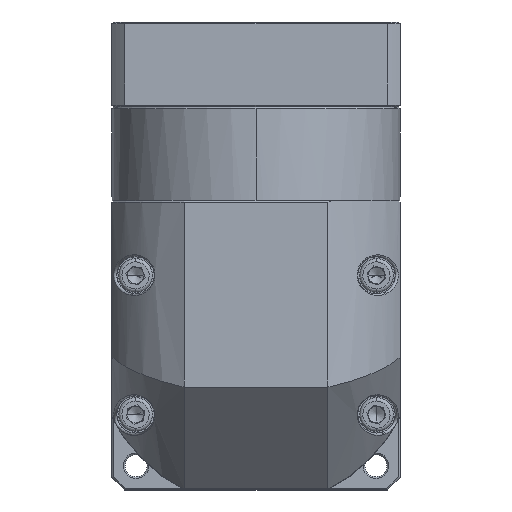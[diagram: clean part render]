
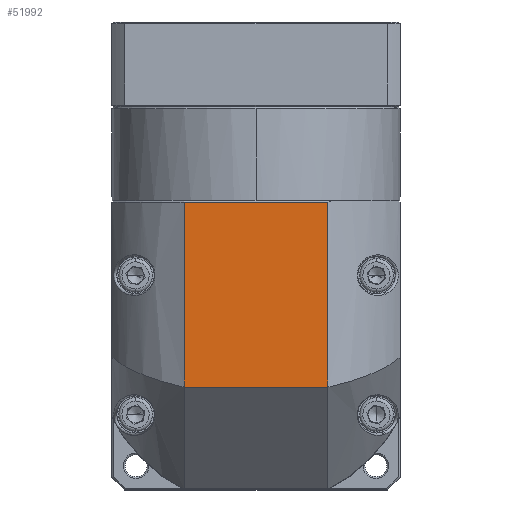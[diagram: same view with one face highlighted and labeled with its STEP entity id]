
A CAD part, top view. The second image highlights one B-rep face of the part: STEP entity #51992.
In plain terms, the highlighted planar face has unit normal (0, 0, 1).
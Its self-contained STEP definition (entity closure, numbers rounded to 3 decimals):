
#1902 = CARTESIAN_POINT ( 'NONE',  ( -23.028, -15.64, 251.5 ) ) ;
#3612 = LINE ( 'NONE', #77918, #83558 ) ;
#6196 = EDGE_CURVE ( 'NONE', #85332, #127167, #16966, .T. ) ;
#15920 = CARTESIAN_POINT ( 'NONE',  ( -1.814, 38.86, 251.5 ) ) ;
#16966 = LINE ( 'NONE', #102109, #111561 ) ;
#20456 = CARTESIAN_POINT ( 'NONE',  ( -1.814, -15.64, 251.5 ) ) ;
#21689 = CARTESIAN_POINT ( 'NONE',  ( -23.028, -3.14, 251.5 ) ) ;
#24978 = VERTEX_POINT ( 'NONE', #20456 ) ;
#25332 = EDGE_CURVE ( 'NONE', #24978, #38198, #54606, .T. ) ;
#35916 = CARTESIAN_POINT ( 'NONE',  ( -44.241, -15.64, 251.5 ) ) ;
#38198 = VERTEX_POINT ( 'NONE', #35916 ) ;
#43322 = VECTOR ( 'NONE', #63427, 1000. ) ;
#43734 = CARTESIAN_POINT ( 'NONE',  ( -1.814, -61.14, 251.5 ) ) ;
#51992 = ADVANCED_FACE ( 'NONE', ( #99054 ), #126146, .T. ) ;
#54606 = LINE ( 'NONE', #1902, #103507 ) ;
#60929 = ORIENTED_EDGE ( 'NONE', *, *, #25332, .F. ) ;
#63427 = DIRECTION ( 'NONE',  ( 0., -1., 0. ) ) ;
#71118 = LINE ( 'NONE', #43734, #43322 ) ;
#77918 = CARTESIAN_POINT ( 'NONE',  ( -44.241, -61.14, 251.5 ) ) ;
#82930 = ORIENTED_EDGE ( 'NONE', *, *, #130139, .F. ) ;
#83517 = DIRECTION ( 'NONE',  ( -1., 0., 0. ) ) ;
#83558 = VECTOR ( 'NONE', #119439, 1000. ) ;
#85332 = VERTEX_POINT ( 'NONE', #15920 ) ;
#85444 = DIRECTION ( 'NONE',  ( 0., 1., 0. ) ) ;
#91979 = ORIENTED_EDGE ( 'NONE', *, *, #124184, .F. ) ;
#95394 = AXIS2_PLACEMENT_3D ( 'NONE', #21689, #105085, #85444 ) ;
#98328 = ORIENTED_EDGE ( 'NONE', *, *, #6196, .T. ) ;
#99054 = FACE_OUTER_BOUND ( 'NONE', #128604, .T. ) ;
#102109 = CARTESIAN_POINT ( 'NONE',  ( -23.028, 38.86, 251.5 ) ) ;
#103507 = VECTOR ( 'NONE', #83517, 1000. ) ;
#105085 = DIRECTION ( 'NONE',  ( 0., 0., 1. ) ) ;
#111561 = VECTOR ( 'NONE', #112183, 1000. ) ;
#112183 = DIRECTION ( 'NONE',  ( -1., 0., 0. ) ) ;
#119439 = DIRECTION ( 'NONE',  ( 0., 1., 0. ) ) ;
#124184 = EDGE_CURVE ( 'NONE', #85332, #24978, #71118, .T. ) ;
#126146 = PLANE ( 'NONE',  #95394 ) ;
#127167 = VERTEX_POINT ( 'NONE', #133285 ) ;
#128604 = EDGE_LOOP ( 'NONE', ( #82930, #60929, #91979, #98328 ) ) ;
#130139 = EDGE_CURVE ( 'NONE', #38198, #127167, #3612, .T. ) ;
#133285 = CARTESIAN_POINT ( 'NONE',  ( -44.241, 38.86, 251.5 ) ) ;
